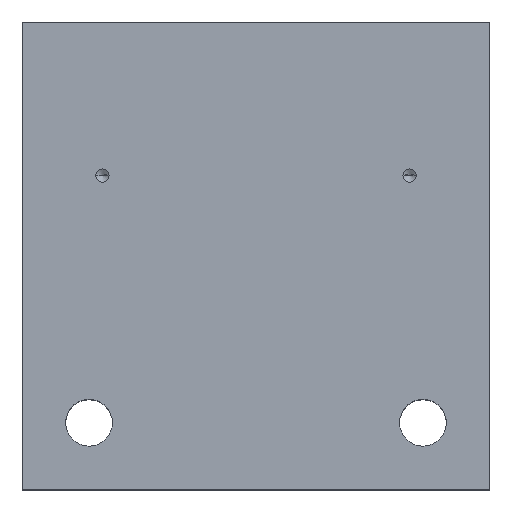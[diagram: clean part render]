
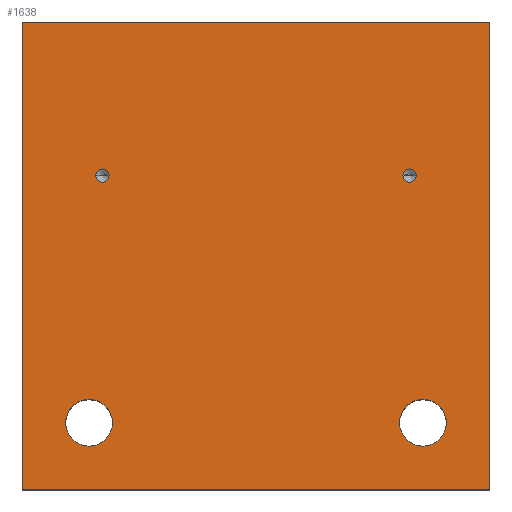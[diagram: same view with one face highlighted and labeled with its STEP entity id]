
A CAD part, top view. The second image highlights one B-rep face of the part: STEP entity #1638.
In plain terms, the highlighted planar face has unit normal (0, 0, 1).
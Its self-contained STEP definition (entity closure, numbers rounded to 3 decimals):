
#18=DIRECTION('',(0.,-1.,0.));
#19=VECTOR('',#18,70.);
#20=CARTESIAN_POINT('',(0.,0.,0.));
#21=LINE('',#20,#19);
#26=DIRECTION('',(-1.,0.,0.));
#27=VECTOR('',#26,70.);
#28=CARTESIAN_POINT('',(70.,0.,0.));
#29=LINE('',#28,#27);
#33=DIRECTION('',(0.,1.,0.));
#34=VECTOR('',#33,70.);
#35=CARTESIAN_POINT('',(70.,-70.,0.));
#36=LINE('',#35,#34);
#40=DIRECTION('',(1.,0.,0.));
#41=VECTOR('',#40,70.);
#42=CARTESIAN_POINT('',(0.,-70.,0.));
#43=LINE('',#42,#41);
#47=CARTESIAN_POINT('',(10.,-60.,0.));
#48=DIRECTION('',(0.,0.,1.));
#49=DIRECTION('',(-1.,0.,0.));
#50=AXIS2_PLACEMENT_3D('',#47,#48,#49);
#55=CARTESIAN_POINT('',(10.,-60.,0.));
#56=DIRECTION('',(0.,0.,1.));
#57=DIRECTION('',(1.,0.,0.));
#58=AXIS2_PLACEMENT_3D('',#55,#56,#57);
#63=CARTESIAN_POINT('',(60.,-60.,0.));
#64=DIRECTION('',(0.,0.,1.));
#65=DIRECTION('',(-1.,0.,0.));
#66=AXIS2_PLACEMENT_3D('',#63,#64,#65);
#71=CARTESIAN_POINT('',(60.,-60.,0.));
#72=DIRECTION('',(0.,0.,1.));
#73=DIRECTION('',(1.,0.,0.));
#74=AXIS2_PLACEMENT_3D('',#71,#72,#73);
#79=CARTESIAN_POINT('',(12.,-23.,0.));
#80=DIRECTION('',(0.,0.,1.));
#81=DIRECTION('',(-1.,0.,0.));
#82=AXIS2_PLACEMENT_3D('',#79,#80,#81);
#87=CARTESIAN_POINT('',(12.,-23.,0.));
#88=DIRECTION('',(0.,0.,1.));
#89=DIRECTION('',(1.,0.,0.));
#90=AXIS2_PLACEMENT_3D('',#87,#88,#89);
#95=CARTESIAN_POINT('',(58.,-23.,0.));
#96=DIRECTION('',(0.,0.,1.));
#97=DIRECTION('',(-1.,0.,0.));
#98=AXIS2_PLACEMENT_3D('',#95,#96,#97);
#103=CARTESIAN_POINT('',(58.,-23.,0.));
#104=DIRECTION('',(0.,0.,1.));
#105=DIRECTION('',(1.,0.,0.));
#106=AXIS2_PLACEMENT_3D('',#103,#104,#105);
#1415=CARTESIAN_POINT('',(0.,0.,0.));
#1416=CARTESIAN_POINT('',(0.,-70.,0.));
#1417=VERTEX_POINT('',#1415);
#1418=VERTEX_POINT('',#1416);
#1419=CARTESIAN_POINT('',(70.,-70.,0.));
#1420=VERTEX_POINT('',#1419);
#1421=CARTESIAN_POINT('',(70.,0.,0.));
#1422=VERTEX_POINT('',#1421);
#1472=CARTESIAN_POINT('',(6.5,-60.,0.));
#1474=VERTEX_POINT('',#1472);
#1476=CARTESIAN_POINT('',(13.5,-60.,0.));
#1478=VERTEX_POINT('',#1476);
#1485=CARTESIAN_POINT('',(11.,-23.,0.));
#1486=VERTEX_POINT('',#1485);
#1487=CARTESIAN_POINT('',(13.,-23.,0.));
#1488=VERTEX_POINT('',#1487);
#1490=CARTESIAN_POINT('',(56.5,-60.,0.));
#1492=VERTEX_POINT('',#1490);
#1494=CARTESIAN_POINT('',(63.5,-60.,0.));
#1496=VERTEX_POINT('',#1494);
#1503=CARTESIAN_POINT('',(57.,-23.,0.));
#1504=VERTEX_POINT('',#1503);
#1505=CARTESIAN_POINT('',(59.,-23.,0.));
#1506=VERTEX_POINT('',#1505);
#1599=CARTESIAN_POINT('',(0.,0.,0.));
#1600=DIRECTION('',(0.,0.,1.));
#1601=DIRECTION('',(1.,0.,0.));
#1602=AXIS2_PLACEMENT_3D('',#1599,#1600,#1601);
#1603=PLANE('',#1602);
#1605=ORIENTED_EDGE('',*,*,#1604,.F.);
#1607=ORIENTED_EDGE('',*,*,#1606,.F.);
#1609=ORIENTED_EDGE('',*,*,#1608,.F.);
#1611=ORIENTED_EDGE('',*,*,#1610,.F.);
#1612=EDGE_LOOP('',(#1605,#1607,#1609,#1611));
#1613=FACE_OUTER_BOUND('',#1612,.F.);
#1615=ORIENTED_EDGE('',*,*,#1614,.T.);
#1617=ORIENTED_EDGE('',*,*,#1616,.T.);
#1618=EDGE_LOOP('',(#1615,#1617));
#1619=FACE_BOUND('',#1618,.F.);
#1621=ORIENTED_EDGE('',*,*,#1620,.T.);
#1623=ORIENTED_EDGE('',*,*,#1622,.T.);
#1624=EDGE_LOOP('',(#1621,#1623));
#1625=FACE_BOUND('',#1624,.F.);
#1627=ORIENTED_EDGE('',*,*,#1626,.T.);
#1629=ORIENTED_EDGE('',*,*,#1628,.T.);
#1630=EDGE_LOOP('',(#1627,#1629));
#1631=FACE_BOUND('',#1630,.F.);
#1633=ORIENTED_EDGE('',*,*,#1632,.T.);
#1635=ORIENTED_EDGE('',*,*,#1634,.T.);
#1636=EDGE_LOOP('',(#1633,#1635));
#1637=FACE_BOUND('',#1636,.F.);
#51=CIRCLE('',#50,3.5);
#59=CIRCLE('',#58,3.5);
#67=CIRCLE('',#66,3.5);
#75=CIRCLE('',#74,3.5);
#83=CIRCLE('',#82,1.);
#91=CIRCLE('',#90,1.);
#99=CIRCLE('',#98,1.);
#107=CIRCLE('',#106,1.);
#1604=EDGE_CURVE('',#1417,#1418,#21,.T.);
#1606=EDGE_CURVE('',#1422,#1417,#29,.T.);
#1608=EDGE_CURVE('',#1420,#1422,#36,.T.);
#1610=EDGE_CURVE('',#1418,#1420,#43,.T.);
#1614=EDGE_CURVE('',#1474,#1478,#51,.T.);
#1616=EDGE_CURVE('',#1478,#1474,#59,.T.);
#1620=EDGE_CURVE('',#1492,#1496,#67,.T.);
#1622=EDGE_CURVE('',#1496,#1492,#75,.T.);
#1626=EDGE_CURVE('',#1486,#1488,#83,.T.);
#1628=EDGE_CURVE('',#1488,#1486,#91,.T.);
#1632=EDGE_CURVE('',#1504,#1506,#99,.T.);
#1634=EDGE_CURVE('',#1506,#1504,#107,.T.);
#1638=ADVANCED_FACE('',(#1613,#1619,#1625,#1631,#1637),#1603,.T.);
